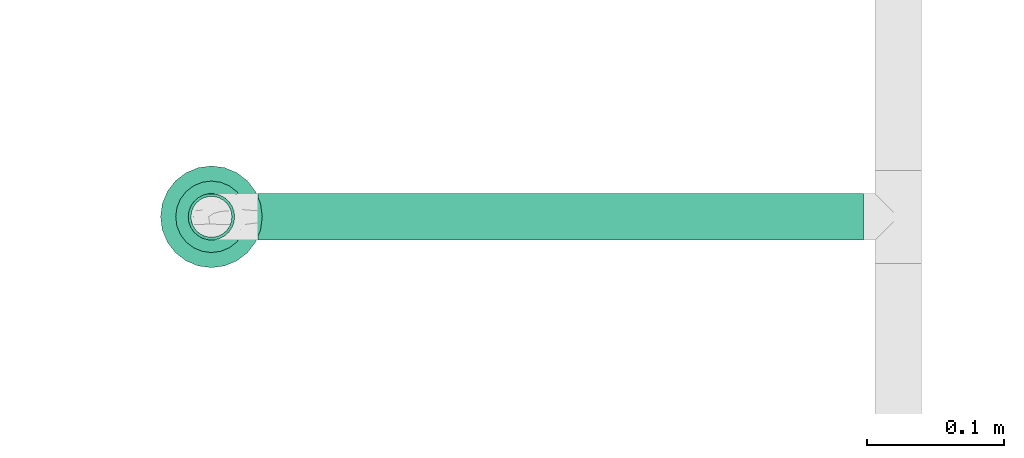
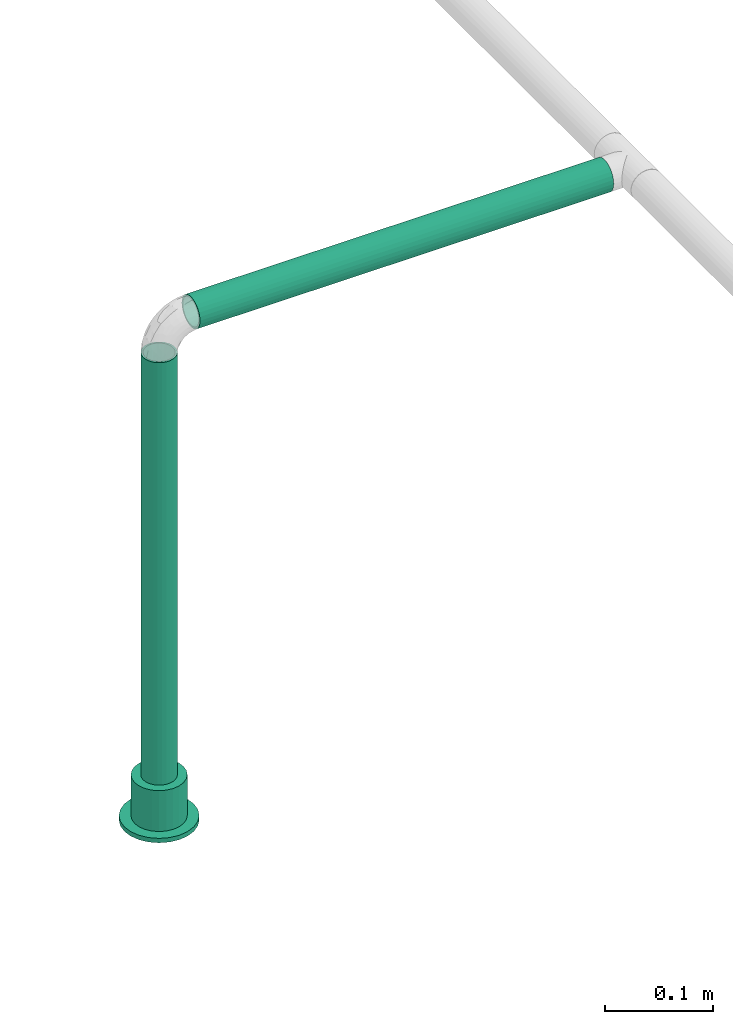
# One storey, part 21 of 95: 2 flow segments, 1 flow terminal.
"""IFC2X3 building model written with IfcOpenShell, lengths in millimetres."""

from ifc_helpers import new_model, entity, si_unit, converted_unit, derived_unit, direction, frame, origin_with_axes, origin_2d_with_axis, place, context, subcontext, project, spatial, hollow_circle, extrude, open_shell, surface_model, source, transform, mapped, type_object, element, save


model = new_model("IFC2X3")

# Units and contexts
model_context = context("Model", 3, precision=0.01, world=frame((0.0, 4.29681676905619e-09, 0.0)), true_north=direction((4.01073788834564e-13, 1.0)))
plan_context = context("Plan", 3, precision=0.01, world=frame((0.0, 4.29681676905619e-09, 0.0)), true_north=direction((4.01073788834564e-13, 1.0)))
body_context = subcontext(model_context, "Body", "Model", "MODEL_VIEW")
ifc_project = project(units=[converted_unit("PLANEANGLEUNIT", "DEGREE", entity("IfcPositiveLengthMeasure", 0.0174532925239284), si_unit("PLANEANGLEUNIT", "RADIAN"), dimensions=[0, 0, 0, 0, 0, 0, 0]), si_unit("AREAUNIT", "SQUARE_METRE"), si_unit("LENGTHUNIT", "METRE", prefix="MILLI"), si_unit("MASSUNIT", "GRAM", prefix="KILO"), si_unit("POWERUNIT", "WATT"), si_unit("PRESSUREUNIT", "PASCAL"), si_unit("FORCEUNIT", "NEWTON", prefix="KILO"), si_unit("ELECTRICVOLTAGEUNIT", "VOLT"), si_unit("ELECTRICCURRENTUNIT", "AMPERE"), si_unit("THERMODYNAMICTEMPERATUREUNIT", "DEGREE_CELSIUS"), si_unit("TIMEUNIT", "SECOND"), si_unit("VOLUMEUNIT", "CUBIC_METRE"), derived_unit("LINEARVELOCITYUNIT", [(si_unit("LENGTHUNIT", "METRE"), 1), (si_unit("TIMEUNIT", "SECOND"), -1)]), derived_unit("VOLUMETRICFLOWRATEUNIT", [(si_unit("VOLUMEUNIT", "CUBIC_METRE"), 1), (si_unit("TIMEUNIT", "SECOND"), -1)]), derived_unit("THERMALTRANSMITTANCEUNIT", [(si_unit("POWERUNIT", "WATT"), 1), (si_unit("THERMODYNAMICTEMPERATUREUNIT", "KELVIN"), -1), (si_unit("AREAUNIT", "SQUARE_METRE"), -1)]), derived_unit("SOUNDPRESSUREUNIT", [(si_unit("PRESSUREUNIT", "PASCAL"), 1)])], contexts=[model_context, plan_context])

# Site, building, storey
site_placement = place(None, frame((0.0, -4.29681676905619e-09, 0.0), z_axis=(0.0, 0.0, 1.0), x_axis=(1.0, 0.0, 0.0)))
site = spatial("IfcSite", under=ifc_project, at=site_placement, CompositionType="ELEMENT")
building_placement = place(site_placement, frame((0.0, 4.29681676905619e-09, 0.0), z_axis=(0.0, 0.0, 1.0), x_axis=(1.0, 0.0, 0.0)))
building = spatial("IfcBuilding", under=site, at=building_placement, Name="mc-building", CompositionType="ELEMENT")
storey_placement = place(building_placement, frame((0.0, 0.0, 210900.0), z_axis=(0.0, 0.0, 1.0), x_axis=(1.0, 0.0, 0.0)))
storey = spatial("IfcBuildingStorey", under=building, at=storey_placement, Name="Nivå F", CompositionType="ELEMENT", Elevation=210900.0)

# Flow segments
pipe_segment_type = type_object("IfcPipeSegmentType", Name="Stålrør normaltykke", PredefinedType="RIGIDSEGMENT")
shared_shape_1 = source(origin_with_axes(), body_context, "Body", "SweptSolid", [
    extrude(hollow_circle(Radius=16.9, WallThickness=2.0, at=origin_2d_with_axis()), frame((0.0, 0.0, 0.0), z_axis=(1.0, 0.0, 0.0), x_axis=(0.0, 1.0, 0.0)), (0.0, 0.0, 1.0), 440.5),
])
flow_segment_1_placement = place(storey_placement, frame((526915.59186, 452603.26458, 4315.0), z_axis=(0.0, 0.0, 1.0), x_axis=(1.0, 0.0, 0.0)))
element("IfcFlowSegment", 1, at=flow_segment_1_placement, inside=storey, type_object=pipe_segment_type, Name="Stålrør normaltykke", context=body_context, shape_type="MappedRepresentation", body=[
    mapped(shared_shape_1, transform((0.0, 0.0, 0.0), scale=1.0)),
])
shared_shape_2 = source(origin_with_axes(), body_context, "Body", "SweptSolid", [
    extrude(hollow_circle(Radius=16.9, WallThickness=2.0, at=origin_2d_with_axis()), frame((0.0, 0.0, 0.0), z_axis=(1.0, 0.0, 0.0), x_axis=(0.0, 1.0, 0.0)), (0.0, 0.0, 1.0), 511.9),
])
flow_segment_2_placement = place(storey_placement, frame((526881.79186, 452603.266, 4281.20000000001), z_axis=(0.0, -0.9999999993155, -3.69999999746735e-05), x_axis=(0.0, 3.69999999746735e-05, -0.9999999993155)))
element("IfcFlowSegment", 2, at=flow_segment_2_placement, inside=storey, type_object=pipe_segment_type, Name="Stålrør normaltykke", context=body_context, shape_type="MappedRepresentation", body=[
    mapped(shared_shape_2, transform((0.0, 0.0, 0.0), scale=1.0)),
])

# Flow terminal
fire_suppression_terminal_type = type_object("IfcFireSuppressionTerminalType", Name="68DGR-STD-SKJULT I HIMLING", PredefinedType="NOTDEFINED")
shared_shape_3 = source(origin_with_axes(), body_context, "Body", "SurfaceModel", [
    surface_model("IfcShellBasedSurfaceModel", [(6.72929, -25.11407, 0.0), (13.0, -22.51666, 0.0), (18.38478, -18.38478, 0.0), (-25.11407, -6.72929, 0.0), (25.11407, -6.72929, 0.0), (26.0, 0.0, 0.0), (22.51666, -13.0, 0.0), (-6.72929, -25.11407, 0.0), (-13.0, -22.51666, 0.0), (0.0, -26.0, 0.0), (-18.38478, -18.38478, 0.0), (-22.51666, -13.0, 0.0), (25.11407, 6.72929, 0.0), (22.51666, 13.0, 0.0), (18.38478, 18.38478, 0.0), (13.0, 22.51666, 0.0), (6.72929, 25.11407, 0.0), (0.0, 26.0, 0.0), (-18.38478, 18.38478, 0.0), (-26.0, 0.0, 0.0), (-22.51666, 13.0, 0.0), (-25.11407, 6.72929, 0.0), (-6.72929, 25.11407, 0.0), (-13.0, 22.51666, 0.0), (0.0, 26.0, -46.0), (6.72929, 25.11407, -46.0), (13.0, 22.51666, -46.0), (-25.11407, -6.72929, -46.0), (18.38478, 18.38478, -46.0), (22.51666, 13.0, -46.0), (25.11407, 6.72929, -46.0), (-18.38478, 18.38478, -46.0), (-6.72929, 25.11407, -46.0), (-13.0, 22.51666, -46.0), (-22.51666, 13.0, -46.0), (-26.0, 0.0, -46.0), (-25.11407, 6.72929, -46.0), (25.11407, -6.72929, -46.0), (18.38478, -18.38478, -46.0), (22.51666, -13.0, -46.0), (13.0, -22.51666, -46.0), (6.72929, -25.11407, -46.0), (-18.38478, -18.38478, -46.0), (-22.51666, -13.0, -46.0), (-13.0, -22.51666, -46.0), (-6.72929, -25.11407, -46.0), (0.0, -26.0, -46.0), (26.0, 0.0, -46.0), (35.73926, -9.57631, 5.0), (9.57631, -35.73926, 5.0), (18.5, -32.04294, 5.0), (32.04294, -18.5, 5.0), (26.16295, -26.16295, 5.0), (-18.5, -32.04294, 5.0), (-26.16295, -26.16295, 5.0), (37.0, 0.0, 5.0), (0.0, -37.0, 5.0), (-9.57631, -35.73926, 5.0), (-35.73926, -9.57631, 5.0), (-32.04294, -18.5, 5.0), (35.73926, 9.57631, 5.0), (0.0, 37.0, 5.0), (32.04294, 18.5, 5.0), (18.5, 32.04294, 5.0), (26.16295, 26.16295, 5.0), (9.57631, 35.73926, 5.0), (-9.57631, 35.73926, 5.0), (-35.73926, 9.57631, 5.0), (-26.16295, 26.16295, 5.0), (-32.04294, 18.5, 5.0), (-37.0, 0.0, 5.0), (-18.5, 32.04294, 5.0), (0.0, 37.0, 0.0), (9.57631, 35.73926, 0.0), (18.5, 32.04294, 0.0), (32.04294, 18.5, 0.0), (-26.16295, 26.16295, 0.0), (26.16295, 26.16295, 0.0), (35.73926, -9.57631, 0.0), (-9.57631, 35.73926, 0.0), (-18.5, 32.04294, 0.0), (-35.73926, 9.57631, 0.0), (-32.04294, 18.5, 0.0), (-26.16295, -26.16295, 0.0), (-37.0, 0.0, 0.0), (35.73926, 9.57631, 0.0), (37.0, 0.0, 0.0), (9.57631, -35.73926, 0.0), (18.5, -32.04294, 0.0), (32.04294, -18.5, 0.0), (26.16295, -26.16295, 0.0), (-18.5, -32.04294, 0.0), (-35.73926, -9.57631, 0.0), (-32.04294, -18.5, 0.0), (0.0, -37.0, 0.0), (-9.57631, -35.73926, 0.0)], [open_shell([[[0, 1, 2]], [[3, 0, 2]], [[4, 5, 2]], [[4, 2, 6]], [[3, 2, 5]], [[7, 3, 8]], [[7, 9, 0]], [[10, 3, 11]], [[3, 10, 8]], [[0, 3, 7]], [[5, 12, 3]], [[12, 13, 14]], [[12, 14, 15]], [[15, 16, 17]], [[17, 3, 15]], [[17, 18, 3]], [[19, 20, 21]], [[19, 3, 20]], [[18, 22, 23]], [[3, 18, 20]], [[17, 22, 18]], [[12, 15, 3]], [[24, 25, 26]], [[27, 24, 26]], [[28, 29, 30]], [[28, 30, 26]], [[27, 31, 24]], [[32, 31, 33]], [[32, 24, 31]], [[34, 35, 36]], [[35, 34, 31]], [[31, 27, 35]], [[27, 26, 30]], [[30, 37, 38]], [[38, 37, 39]], [[38, 40, 41]], [[38, 27, 30]], [[41, 27, 38]], [[27, 42, 43]], [[42, 27, 44]], [[27, 45, 44]], [[27, 41, 45]], [[41, 46, 45]], [[37, 30, 47]], [[3, 27, 43]], [[42, 11, 43]], [[8, 44, 45]], [[42, 44, 10]], [[7, 45, 46]], [[19, 35, 3]], [[35, 27, 3]], [[43, 11, 3]], [[42, 10, 11]], [[8, 10, 44]], [[45, 7, 8]], [[46, 9, 7]], [[0, 41, 40]], [[38, 1, 40]], [[6, 39, 37]], [[38, 39, 2]], [[4, 37, 47]], [[41, 0, 9]], [[40, 1, 0]], [[38, 2, 1]], [[39, 6, 2]], [[4, 6, 37]], [[47, 5, 4]], [[41, 9, 46]], [[30, 12, 47]], [[29, 13, 30]], [[25, 24, 16]], [[28, 14, 29]], [[30, 13, 12]], [[12, 5, 47]], [[15, 26, 16]], [[26, 15, 14]], [[26, 25, 16]], [[14, 13, 29]], [[14, 28, 26]], [[24, 17, 16]], [[22, 32, 33]], [[31, 23, 33]], [[20, 34, 36]], [[31, 34, 18]], [[21, 36, 35]], [[32, 22, 17]], [[33, 23, 22]], [[31, 18, 23]], [[34, 20, 18]], [[21, 20, 36]], [[35, 19, 21]], [[32, 17, 24]], [[48, 49, 50]], [[51, 50, 52]], [[49, 48, 53]], [[48, 50, 51]], [[54, 48, 55]], [[56, 53, 57]], [[56, 49, 53]], [[54, 58, 59]], [[54, 53, 48]], [[58, 54, 55]], [[55, 60, 58]], [[61, 60, 62]], [[63, 62, 64]], [[63, 65, 61]], [[63, 61, 62]], [[60, 61, 66]], [[67, 68, 69]], [[70, 58, 67]], [[68, 66, 71]], [[67, 60, 68]], [[60, 66, 68]], [[67, 58, 60]], [[72, 73, 74]], [[72, 74, 75]], [[72, 75, 76]], [[75, 74, 77]], [[78, 76, 75]], [[79, 76, 80]], [[79, 72, 76]], [[76, 81, 82]], [[76, 78, 81]], [[81, 83, 84]], [[85, 86, 75]], [[81, 78, 87]], [[88, 78, 89]], [[88, 87, 78]], [[88, 89, 90]], [[91, 81, 87]], [[92, 83, 93]], [[84, 83, 92]], [[91, 94, 95]], [[83, 81, 91]], [[94, 91, 87]], [[78, 75, 86]], [[92, 58, 84]], [[93, 59, 92]], [[53, 83, 91]], [[93, 83, 54]], [[57, 91, 95]], [[92, 59, 58]], [[58, 70, 84]], [[57, 53, 91]], [[54, 83, 53]], [[54, 59, 93]], [[56, 57, 95]], [[95, 94, 56]], [[87, 49, 94]], [[88, 50, 87]], [[51, 90, 89]], [[88, 90, 52]], [[48, 89, 78]], [[88, 52, 50]], [[50, 49, 87]], [[55, 48, 78]], [[51, 89, 48]], [[51, 52, 90]], [[86, 55, 78]], [[94, 49, 56]], [[85, 60, 86]], [[75, 62, 85]], [[63, 77, 74]], [[75, 77, 64]], [[65, 74, 73]], [[85, 62, 60]], [[60, 55, 86]], [[65, 63, 74]], [[64, 77, 63]], [[64, 62, 75]], [[61, 65, 73]], [[73, 72, 61]], [[79, 66, 72]], [[80, 71, 79]], [[69, 76, 82]], [[80, 76, 68]], [[67, 82, 81]], [[80, 68, 71]], [[71, 66, 79]], [[70, 67, 81]], [[69, 82, 67]], [[69, 68, 76]], [[84, 70, 81]], [[72, 66, 61]]])]),
])
flow_terminal_placement = place(storey_placement, frame((526881.79186, 452603.28649, 3759.89999999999), z_axis=(0.0, 0.0, -1.0), x_axis=(-1.0, 0.0, 0.0)))
element("IfcFlowTerminal", 3, at=flow_terminal_placement, inside=storey, type_object=fire_suppression_terminal_type, Name="68DGR-STD-SKJULT I HIMLING", context=body_context, shape_type="MappedRepresentation", body=[
    mapped(shared_shape_3, transform((0.0, 0.0, 0.0), scale=1.0)),
])

save(model, "model.ifc")
